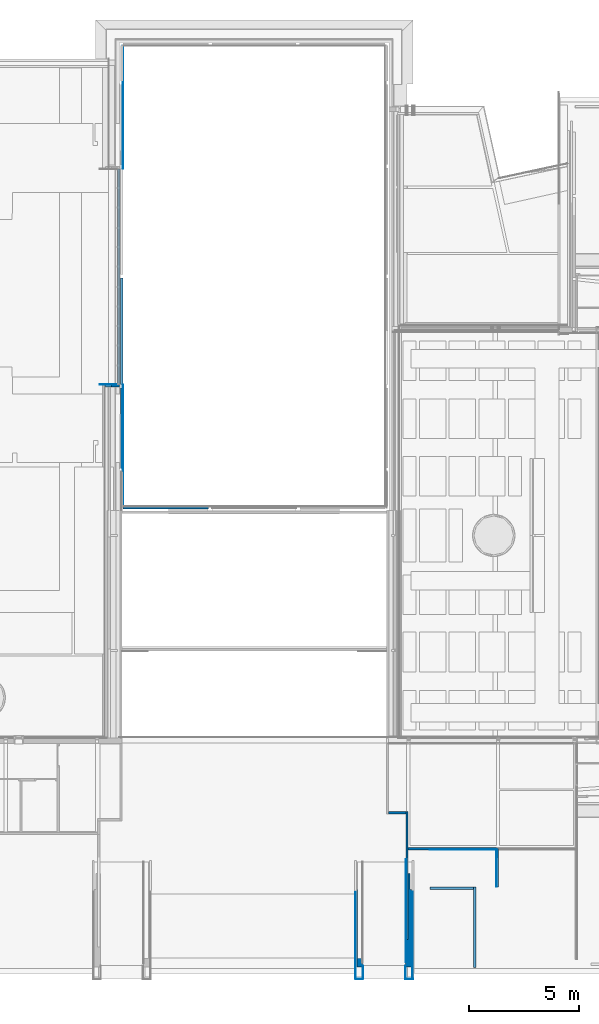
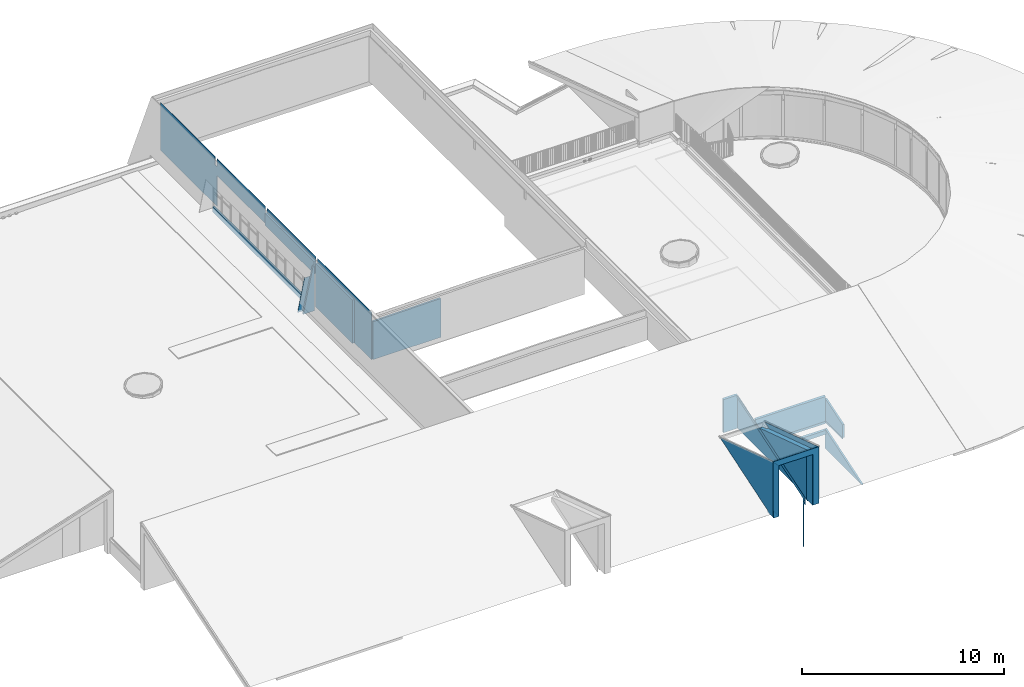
# One storey, part 24 of 66: 23 walls, 11 openings.
"""IFC2X3 building model written with IfcOpenShell, lengths in millimetres."""

from ifc_helpers import new_model, entity, si_unit, converted_unit, derived_unit, direction, frame, frame_2d, origin, origin_2d_with_axis, place, context, subcontext, project, spatial, polyline, rectangle, outline, extrude, clip, halfspace, bounded_halfspace, material, layer, layer_set, layer_usage, type_object, element, save


model = new_model("IFC2X3")

# Units and contexts
model_context = context("Model", 3, precision=0.01, world=origin(), true_north=direction((6.12303176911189e-17, 1.0)))
body_context = subcontext(model_context, "Body", "Model", "MODEL_VIEW")
ifc_project = project(units=[si_unit("LENGTHUNIT", "METRE", prefix="MILLI"), si_unit("AREAUNIT", "SQUARE_METRE"), si_unit("VOLUMEUNIT", "CUBIC_METRE"), converted_unit("PLANEANGLEUNIT", "DEGREE", entity("IfcRatioMeasure", 0.0174532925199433), si_unit("PLANEANGLEUNIT", "RADIAN"), dimensions=[0, 0, 0, 0, 0, 0, 0]), si_unit("MASSUNIT", "GRAM", prefix="KILO"), derived_unit("MASSDENSITYUNIT", [(si_unit("MASSUNIT", "GRAM", prefix="KILO"), 1), (si_unit("LENGTHUNIT", "METRE"), -3)]), derived_unit("MOMENTOFINERTIAUNIT", [(si_unit("LENGTHUNIT", "METRE"), 4)]), si_unit("TIMEUNIT", "SECOND"), si_unit("FREQUENCYUNIT", "HERTZ"), si_unit("THERMODYNAMICTEMPERATUREUNIT", "DEGREE_CELSIUS"), derived_unit("THERMALTRANSMITTANCEUNIT", [(si_unit("MASSUNIT", "GRAM", prefix="KILO"), 1), (si_unit("THERMODYNAMICTEMPERATUREUNIT", "KELVIN"), -1), (si_unit("TIMEUNIT", "SECOND"), -3)]), derived_unit("VOLUMETRICFLOWRATEUNIT", [(si_unit("LENGTHUNIT", "METRE"), 3), (si_unit("TIMEUNIT", "SECOND"), -1)]), si_unit("ELECTRICCURRENTUNIT", "AMPERE"), si_unit("ELECTRICVOLTAGEUNIT", "VOLT"), si_unit("POWERUNIT", "WATT"), si_unit("FORCEUNIT", "NEWTON", prefix="KILO"), si_unit("ILLUMINANCEUNIT", "LUX"), si_unit("LUMINOUSFLUXUNIT", "LUMEN"), si_unit("LUMINOUSINTENSITYUNIT", "CANDELA"), derived_unit("USERDEFINED", [(si_unit("MASSUNIT", "GRAM", prefix="KILO"), -1), (si_unit("LENGTHUNIT", "METRE"), -2), (si_unit("TIMEUNIT", "SECOND"), 3), (si_unit("LUMINOUSFLUXUNIT", "LUMEN"), 1)]), derived_unit("LINEARVELOCITYUNIT", [(si_unit("LENGTHUNIT", "METRE"), 1), (si_unit("TIMEUNIT", "SECOND"), -1)]), si_unit("PRESSUREUNIT", "PASCAL"), derived_unit("USERDEFINED", [(si_unit("LENGTHUNIT", "METRE"), -2), (si_unit("MASSUNIT", "GRAM", prefix="KILO"), 1), (si_unit("TIMEUNIT", "SECOND"), -2)]), derived_unit("LINEARFORCEUNIT", [(si_unit("MASSUNIT", "GRAM", prefix="KILO"), 1), (si_unit("LENGTHUNIT", "METRE"), 1), (si_unit("TIMEUNIT", "SECOND"), -2), (si_unit("LENGTHUNIT", "METRE"), -1)]), derived_unit("PLANARFORCEUNIT", [(si_unit("MASSUNIT", "GRAM", prefix="KILO"), 1), (si_unit("LENGTHUNIT", "METRE"), 1), (si_unit("TIMEUNIT", "SECOND"), -2), (si_unit("LENGTHUNIT", "METRE"), -2)])], contexts=[model_context])

# Site, building, storey
site_placement = place(None, origin())
site = spatial("IfcSite", under=ifc_project, at=site_placement, Name="Default", CompositionType="ELEMENT")
building_placement = place(site_placement, origin())
building = spatial("IfcBuilding", under=site, at=building_placement, Name="-", CompositionType="ELEMENT")
storey_placement = place(building_placement, frame((0.0, 0.0, 3070.0)))
storey = spatial("IfcBuildingStorey", under=building, at=storey_placement, Name="01 eerste verdieping", CompositionType="ELEMENT", Elevation=3070.00000000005)

# Walls
ifc_material_1 = material(Name="NLRS_i4_hout_multiplex")
ifc_layer_1 = layer(ifc_material_1, 9.0)
ifc_material_2 = material(Name="NLRS_m1_isolatie")
ifc_layer_2 = layer(ifc_material_2, 89.0)
ifc_layer_3 = layer(ifc_material_1, 9.0)
ifc_layer_set_1 = layer_set([ifc_layer_1, ifc_layer_2, ifc_layer_3], Name="Basic Wall:NLRS_21_WA_HSB-wand_110mm")
ifc_layer_usage_1 = layer_usage(ifc_layer_set_1, "AXIS2", "NEGATIVE", 53.5)
wall_type_1 = type_object("IfcWallType", Name="Basic Wall:NLRS_21_WA_HSB-wand_110mm", PredefinedType="STANDARD", material=ifc_layer_set_1)
wall_1_placement = place(storey_placement, frame((28025.9009154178, 26420.4768827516, 0.0)))
element("IfcWallStandardCase", 1, at=wall_1_placement, inside=storey, type_object=wall_type_1, material=ifc_layer_usage_1, Name="Basic Wall:NLRS_21_WA_HSB-wand_110mm", ObjectType="Basic Wall:NLRS_21_WA_HSB-wand_110mm", context=body_context, shape_type="Clipping", body=[
    clip(clip(extrude(rectangle(XDim=632.099084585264, YDim=107.000000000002, at=frame_2d((316.049542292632, 0.0), x_axis=(-1.0, 0.0))), origin(), (0.0, 0.0, 1.0), 2714.0), halfspace(frame((0.0, -53.5000000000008, 0.0), z_axis=(-0.979575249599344, 0.0, 0.201077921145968), x_axis=(0.0, 1.0, 0.0)), False)), halfspace(frame((557.104192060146, -53.5000000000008, 2714.0), z_axis=(0.0, 0.0, 1.0), x_axis=(0.0, 1.0, 0.0)), False)),
])
ifc_layer_usage_2 = layer_usage(ifc_layer_set_1, "AXIS2", "NEGATIVE", 53.5)
wall_2_placement = place(storey_placement, frame((28618.0, 26473.9768827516, 0.0), z_axis=(0.0, 0.0, 1.0), x_axis=(0.0, 1.0, 0.0)))
element("IfcWallStandardCase", 2, at=wall_2_placement, inside=storey, type_object=wall_type_1, material=ifc_layer_usage_2, Name="Basic Wall:NLRS_21_WA_HSB-wand_110mm", ObjectType="Basic Wall:NLRS_21_WA_HSB-wand_110mm", context=body_context, shape_type="SweptSolid", body=[
    extrude(rectangle(XDim=9815.07846312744, YDim=107.000000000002, at=frame_2d((4907.53923156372, -4.9737991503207e-14), x_axis=(-1.0, 0.0))), origin(), (0.0, 0.0, 1.0), 345.359003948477),
])
ifc_layer_usage_3 = layer_usage(ifc_layer_set_1, "AXIS2", "POSITIVE", -53.5)
wall_3_placement = place(storey_placement, frame((28761.5005071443, 22672.2745267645, 245.0), z_axis=(0.0, 0.0, 1.0), x_axis=(0.0, 1.0, 0.0)))
element("IfcWallStandardCase", 3, at=wall_3_placement, inside=storey, type_object=wall_type_1, material=ifc_layer_usage_3, Name="Basic Wall:NLRS_21_WA_HSB-wand_110mm", ObjectType="Basic Wall:NLRS_21_WA_HSB-wand_110mm", context=body_context, shape_type="SweptSolid", body=[
    extrude(rectangle(XDim=3645.0, YDim=107.000000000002, at=frame_2d((1822.5, 0.0), x_axis=(-1.0, 0.0))), origin(), (0.0, 0.0, 1.0), 2633.52593752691),
])
ifc_layer_usage_4 = layer_usage(ifc_layer_set_1, "AXIS2", "POSITIVE", -53.5)
wall_4_placement = place(storey_placement, frame((32703.0, 20876.8202504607, 345.0), z_axis=(0.0, 0.0, 1.0), x_axis=(-1.0, 0.0, 0.0)))
element("IfcWallStandardCase", 4, at=wall_4_placement, inside=storey, type_object=wall_type_1, material=ifc_layer_usage_4, Name="Basic Wall:NLRS_21_WA_HSB-wand_110mm", ObjectType="Basic Wall:NLRS_21_WA_HSB-wand_110mm", context=body_context, shape_type="Clipping", body=[
    clip(extrude(rectangle(XDim=3885.0, YDim=107.000000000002, at=frame_2d((1942.5, 0.0), x_axis=(-1.0, 0.0))), origin(), (0.0, 0.0, 1.0), 2355.14919811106), halfspace(frame((0.0, -53.5000000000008, 2355.14919811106), z_axis=(0.0141681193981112, 0.0, 0.999899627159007), x_axis=(0.0, 1.0, 0.0)), False)),
])
ifc_layer_usage_5 = layer_usage(ifc_layer_set_1, "AXIS2", "POSITIVE", -53.5)
wall_5_placement = place(storey_placement, frame((28761.500000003, 26478.8202504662, 2143.30371120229), z_axis=(0.0, 0.0, 1.0), x_axis=(0.0, 1.0, 0.0)))
element("IfcWallStandardCase", 5, at=wall_5_placement, inside=storey, type_object=wall_type_1, material=ifc_layer_usage_5, Name="Basic Wall:NLRS_21_WA_HSB-wand_110mm", ObjectType="Basic Wall:NLRS_21_WA_HSB-wand_110mm", context=body_context, shape_type="SweptSolid", body=[
    extrude(rectangle(XDim=4856.00000000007, YDim=107.000000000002, at=frame_2d((2428.00000000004, 1.4210854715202e-12), x_axis=(-1.0, 0.0))), origin(), (0.0, 0.0, 1.0), 735.222226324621),
])
ifc_material_3 = material(Name="NLRS_f7_gipsplaat_gen")
ifc_layer_4 = layer(ifc_material_3, 12.5)
ifc_layer_5 = layer(ifc_material_2, 75.0)
ifc_layer_6 = layer(ifc_material_3, 12.5)
ifc_layer_set_2 = layer_set([ifc_layer_4, ifc_layer_5, ifc_layer_6], Name="Basic Wall:NLRS_21_WA_Metalstud 100mm")
ifc_layer_usage_6 = layer_usage(ifc_layer_set_2, "AXIS2", "NEGATIVE", 50.0)
wall_type_2 = type_object("IfcWallType", Name="Basic Wall:NLRS_21_WA_Metalstud 100mm", PredefinedType="STANDARD", material=ifc_layer_set_2)
wall_6_placement = place(storey_placement, frame((40893.066810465, 7008.1212223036, 100.0)))
element("IfcWallStandardCase", 6, at=wall_6_placement, inside=storey, type_object=wall_type_2, material=ifc_layer_usage_6, Name="Basic Wall:NLRS_21_WA_Metalstud 100mm", ObjectType="Basic Wall:NLRS_21_WA_Metalstud 100mm", context=body_context, shape_type="Clipping", body=[
    clip(extrude(rectangle(XDim=794.219106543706, YDim=99.9999999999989, at=frame_2d((397.109553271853, 0.0), x_axis=(-1.0, 0.0))), origin(), (0.0, 0.0, 1.0), 2040.42827331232), bounded_halfspace(frame((0.0, -50.0, 2007.93630368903), z_axis=(0.0, -0.309016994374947, 0.951056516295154), x_axis=(1.0, 0.0, 0.0)), False, frame((0.0, -50.0, 2007.93630368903), z_axis=(0.0, -0.309016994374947, 0.951056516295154), x_axis=(1.0, 0.0, 0.0)), polyline([(0.0, 0.0), (794.219106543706, 0.0), (794.219106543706, 105.146222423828), (0.0, 105.146222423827), (0.0, 0.0)]))),
])
ifc_layer_usage_7 = layer_usage(ifc_layer_set_2, "AXIS2", "NEGATIVE", 50.0)
wall_7_placement = place(storey_placement, frame((44817.2859529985, 3620.76111630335, -163.0), z_axis=(0.0, 0.0, 1.0), x_axis=(0.0, -1.0, 0.0)))
element("IfcWallStandardCase", 7, at=wall_7_placement, inside=storey, type_object=wall_type_2, material=ifc_layer_usage_7, Name="Basic Wall:NLRS_21_WA_Metalstud 100mm", ObjectType="Basic Wall:NLRS_21_WA_Metalstud 100mm", context=body_context, shape_type="Clipping", body=[
    clip(extrude(rectangle(XDim=3651.86316983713, YDim=99.9999999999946, at=frame_2d((1825.93158491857, 0.0), x_axis=(-1.0, 0.0))), origin(), (0.0, 0.0, 1.0), 1186.56227182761), halfspace(frame((0.0, -50.0, 1186.56227182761), z_axis=(0.309016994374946, 0.0, 0.951056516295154), x_axis=(0.0, 1.0, 0.0)), False)),
])
ifc_layer_usage_8 = layer_usage(ifc_layer_set_2, "AXIS2", "NEGATIVE", 50.0)
wall_8_placement = place(storey_placement, frame((41737.2859170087, 1248.58021179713, 100.0), z_axis=(0.0, 0.0, 1.0), x_axis=(0.0, 1.0, 0.0)))
element("IfcWallStandardCase", 8, at=wall_8_placement, inside=storey, type_object=wall_type_2, material=ifc_layer_usage_8, Name="Basic Wall:NLRS_21_WA_Metalstud 100mm", ObjectType="Basic Wall:NLRS_21_WA_Metalstud 100mm", context=body_context, shape_type="Clipping", body=[
    clip(extrude(rectangle(XDim=5809.54101050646, YDim=99.9999999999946, at=frame_2d((2904.77050525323, -2.70006239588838e-13), x_axis=(-1.0, 0.0))), origin(), (0.0, 0.0, 1.0), 1887.63430038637), halfspace(frame((0.0, -50.0, 0.0), z_axis=(-0.309016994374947, 0.0, 0.951056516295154), x_axis=(0.0, 1.0, 0.0)), False)),
])
ifc_layer_usage_9 = layer_usage(ifc_layer_set_2, "AXIS2", "NEGATIVE", 50.0)
wall_9_placement = place(storey_placement, frame((45836.4585299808, 5370.76111630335, 100.0), z_axis=(0.0, 0.0, 1.0), x_axis=(0.0, -1.0, 0.0)))
element("IfcWallStandardCase", 9, at=wall_9_placement, inside=storey, type_object=wall_type_2, material=ifc_layer_usage_9, Name="Basic Wall:NLRS_21_WA_Metalstud 100mm", ObjectType="Basic Wall:NLRS_21_WA_Metalstud 100mm", context=body_context, shape_type="Clipping", body=[
    clip(extrude(rectangle(XDim=1750.0, YDim=99.9999999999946, at=frame_2d((875.0, -2.00017780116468e-12), x_axis=(-1.0, 0.0))), origin(), (0.0, 0.0, 1.0), 1337.53342280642), halfspace(frame((0.0, -50.0, 1337.53342280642), z_axis=(0.299874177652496, 0.0, 0.953978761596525), x_axis=(0.0, 1.0, 0.0)), False)),
])
ifc_layer_7 = layer(ifc_material_3, 12.5)
ifc_layer_8 = layer(ifc_material_2, 89.0)
ifc_layer_9 = layer(ifc_material_3, 12.5)
ifc_layer_set_3 = layer_set([ifc_layer_7, ifc_layer_8, ifc_layer_9], Name="Basic Wall:NLRS_21_WA_HSB-wand_114mm")
ifc_layer_usage_10 = layer_usage(ifc_layer_set_3, "AXIS2", "NEGATIVE", 57.0)
wall_type_3 = type_object("IfcWallType", Name="Basic Wall:NLRS_21_WA_HSB-wand_114mm", PredefinedType="STANDARD", material=ifc_layer_set_3)
wall_10_placement = place(storey_placement, frame((42777.2859529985, 3563.76111630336, 750.0)))
element("IfcWallStandardCase", 10, at=wall_10_placement, inside=storey, type_object=wall_type_3, material=ifc_layer_usage_10, Name="Basic Wall:NLRS_21_WA_HSB-wand_114mm", ObjectType="Basic Wall:NLRS_21_WA_HSB-wand_114mm", context=body_context, shape_type="Clipping", body=[
    clip(extrude(rectangle(XDim=1980.0, YDim=114.0, at=frame_2d((990.0, -4.2632564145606e-14), x_axis=(-1.0, 0.0))), origin(), (0.0, 0.0, 1.0), 273.562271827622), bounded_halfspace(frame((0.0, -57.0, 236.521426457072), z_axis=(0.0, -0.309016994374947, 0.951056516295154), x_axis=(1.0, 0.0, 0.0)), False, frame((0.0, -57.0, 236.521426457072), z_axis=(0.0, -0.309016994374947, 0.951056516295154), x_axis=(1.0, 0.0, 0.0)), polyline([(0.0, 0.0), (1980.0, 0.0), (1980.0, 119.866693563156), (0.0, 119.866693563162), (0.0, 0.0)]))),
])
ifc_layer_10 = layer(ifc_material_3, 12.5)
ifc_material_4 = material(Name="NLRS_i4_hout_underlayment")
ifc_layer_11 = layer(ifc_material_4, 10.0)
ifc_layer_12 = layer(ifc_material_2, 75.0)
ifc_layer_13 = layer(ifc_material_3, 12.5)
ifc_layer_set_4 = layer_set([ifc_layer_10, ifc_layer_11, ifc_layer_12, ifc_layer_13], Name="Basic Wall:NLRS_21_WA_Metalstud 110mm (rand staalconstructie)")
ifc_layer_usage_11 = layer_usage(ifc_layer_set_4, "AXIS2", "NEGATIVE", 55.0)
wall_type_4 = type_object("IfcWallType", Name="Basic Wall:NLRS_21_WA_Metalstud 110mm (rand staalconstructie)", PredefinedType="STANDARD", material=ifc_layer_set_4)
wall_11_placement = place(storey_placement, frame((45791.4585299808, 5375.72593990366, 82.0), z_axis=(0.0, 0.0, 1.0), x_axis=(-1.0, 0.0, 0.0)))
element("IfcWallStandardCase", 11, at=wall_11_placement, inside=storey, type_object=wall_type_4, material=ifc_layer_usage_11, Name="Basic Wall:NLRS_21_WA_Metalstud 110mm (rand staalconstructie)", ObjectType="Basic Wall:NLRS_21_WA_Metalstud 110mm (rand staalconstructie)", context=body_context, shape_type="Clipping", body=[
    clip(extrude(rectangle(XDim=4004.17261297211, YDim=110.000000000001, at=frame_2d((2002.08630648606, -3.83693077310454e-13), x_axis=(-1.0, 0.0))), origin(), (0.0, 0.0, 1.0), 1529.65549250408), bounded_halfspace(frame((0.0, -55.0, 1529.65549250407), z_axis=(0.0, 0.309016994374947, 0.951056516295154), x_axis=(-1.0, 0.0, 0.0)), False, frame((0.0, -55.0, 1529.65549250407), z_axis=(0.0, 0.309016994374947, 0.951056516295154), x_axis=(-1.0, 0.0, 0.0)), polyline([(0.0, 0.0), (-4004.17261297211, 0.0), (-4004.17261297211, -115.66084466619), (0.0, -115.660844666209), (0.0, 0.0)]))),
])

# Wall, opening
ifc_material_5 = material(Name="AL Houten gevelbekleding staand")
ifc_layer_14 = layer(ifc_material_5, 20.0)
ifc_layer_set_5 = layer_set([ifc_layer_14], Name="Basic Wall:NLRS_42_WA_Houten gevelbekleding staand 20mm")
ifc_layer_usage_12 = layer_usage(ifc_layer_set_5, "AXIS2", "NEGATIVE", 10.0)
wall_type_5 = type_object("IfcWallType", Name="Basic Wall:NLRS_42_WA_Houten gevelbekleding staand 20mm", PredefinedType="STANDARD", material=ifc_layer_set_5)
wall_12_placement = place(storey_placement, frame((42016.7859170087, -548.516507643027, 0.0), z_axis=(0.0, 0.0, 1.0), x_axis=(-1.0, 0.0, 0.0)))
wall_12 = element("IfcWallStandardCase", 12, at=wall_12_placement, inside=storey, type_object=wall_type_5, material=ifc_layer_usage_12, Name="Basic Wall:NLRS_42_WA_Houten gevelbekleding staand 20mm", ObjectType="Basic Wall:NLRS_42_WA_Houten gevelbekleding staand 20mm", context=body_context, shape_type="SweptSolid", body=[
    extrude(rectangle(XDim=2612.49361967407, YDim=20.0000000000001, at=frame_2d((1306.24680983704, -2.66453525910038e-15), x_axis=(-1.0, 0.0))), origin(), (0.0, 0.0, 1.0), 3425.90316159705),
])
opening_1_placement = place(wall_12_placement, origin())
element("IfcOpeningElement", 13, at=opening_1_placement, cuts=wall_12, Name="Basic Wall:NLRS_42_WA_Houten gevelbekleding staand 20mm", ObjectType="Opening", context=body_context, shape_type="SweptSolid", body=[
    extrude(rectangle(XDim=3078.35905654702, YDim=1927.99999999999, at=frame_2d((0.0, -2.27373675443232e-13), x_axis=(0.0, 1.0))), frame((1324.5, 10.0, 1539.17952827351), z_axis=(0.0, -1.0, 0.0), x_axis=(1.0, 0.0, 0.0)), (0.0, 0.0, 1.0), 20.0),
])

# Wall
ifc_layer_usage_13 = layer_usage(ifc_layer_set_5, "AXIS2", "NEGATIVE", 10.0)
wall_13_placement = place(storey_placement, frame((39728.2859170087, 56.3703555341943, 0.0), z_axis=(0.0, 0.0, 1.0), x_axis=(0.0, -1.0, 0.0)))
element("IfcWallStandardCase", 14, at=wall_13_placement, inside=storey, type_object=wall_type_5, material=ifc_layer_usage_13, Name="Basic Wall:NLRS_42_WA_Houten gevelbekleding staand 20mm", ObjectType="Basic Wall:NLRS_42_WA_Houten gevelbekleding staand 20mm", context=body_context, shape_type="Clipping", body=[
    clip(extrude(rectangle(XDim=594.886863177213, YDim=19.9999999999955, at=frame_2d((297.443431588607, 0.0), x_axis=(-1.0, 0.0))), origin(), (0.0, 0.0, 1.0), 3082.87685927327), halfspace(frame((0.0, -10.0, 2937.94214671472), z_axis=(-0.236710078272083, 0.0, 0.97158033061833), x_axis=(0.0, 1.0, 0.0)), False)),
])

# Wall, opening
ifc_layer_usage_14 = layer_usage(ifc_layer_set_5, "AXIS2", "NEGATIVE", 10.0)
wall_14_placement = place(storey_placement, frame((41989.7922973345, -556.516507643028, 62.7460683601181), z_axis=(0.0, 0.0, 1.0), x_axis=(0.0, 1.0, 0.0)))
wall_14 = element("IfcWallStandardCase", 15, at=wall_14_placement, inside=storey, type_object=wall_type_5, material=ifc_layer_usage_14, Name="Basic Wall:NLRS_42_WA_Houten gevelbekleding staand 20mm", ObjectType="Basic Wall:NLRS_42_WA_Houten gevelbekleding staand 20mm", context=body_context, shape_type="Clipping", body=[
    clip(clip(clip(extrude(rectangle(XDim=5297.63794509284, YDim=19.9999999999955, at=frame_2d((2648.81897254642, 7.99360577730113e-15), x_axis=(-1.0, 0.0))), origin(), (0.0, 0.0, 1.0), 3372.10563573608), halfspace(frame((0.0, -10.0, 3372.10563573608), z_axis=(0.308965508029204, 0.0, 0.951073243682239), x_axis=(0.0, 1.0, 0.0)), False)), halfspace(frame((392.061464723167, -10.0, 0.0), z_axis=(0.0, 0.0, -1.0), x_axis=(0.0, 1.0, 0.0)), False)), halfspace(frame((392.061464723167, 0.0, 0.0), z_axis=(0.318995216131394, 0.0, -0.947756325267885), x_axis=(0.0, 1.0, 0.0)), False)),
])
opening_2_placement = place(wall_14_placement, origin())
element("IfcOpeningElement", 16, at=opening_2_placement, cuts=wall_14, Name="Basic Wall:NLRS_42_WA_Houten gevelbekleding staand 20mm", ObjectType="Opening", context=body_context, shape_type="SweptSolid", body=[
    extrude(outline(polyline([(-1731.41162044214, -18.0697217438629), (3444.57755481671, -18.0697217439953), (-1713.16593437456, 36.139443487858), (-1731.41162044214, -18.0697217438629)])), frame((2027.25362484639, 10.0, 569.437717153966), z_axis=(0.0, -1.0, 0.0), x_axis=(0.947756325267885, 0.0, 0.318995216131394)), (0.0, 0.0, 1.0), 20.0),
])

ifc_layer_usage_15 = layer_usage(ifc_layer_set_5, "AXIS2", "NEGATIVE", 10.0)
wall_15_placement = place(storey_placement, frame((39394.2922973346, -538.516507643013, 56.855176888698), z_axis=(0.0, 0.0, 1.0), x_axis=(0.0, 1.0, 0.0)))
wall_15 = element("IfcWallStandardCase", 17, at=wall_15_placement, inside=storey, type_object=wall_type_5, material=ifc_layer_usage_15, Name="Basic Wall:NLRS_42_WA_Houten gevelbekleding staand 20mm", ObjectType="Basic Wall:NLRS_42_WA_Houten gevelbekleding staand 20mm", context=body_context, shape_type="Clipping", body=[
    clip(clip(clip(extrude(rectangle(XDim=5276.40409600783, YDim=19.9999999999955, at=frame_2d((2638.20204800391, -9.76996261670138e-15), x_axis=(-1.0, 0.0))), origin(), (0.0, 0.0, 1.0), 3372.14903619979), halfspace(frame((0.0, -10.0, 3372.14903619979), z_axis=(0.308965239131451, 0.0, 0.95107333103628), x_axis=(0.0, 1.0, 0.0)), False)), halfspace(frame((524.637729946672, -10.0, 0.0), z_axis=(0.0, 0.0, -1.0), x_axis=(0.0, 1.0, 0.0)), False)), halfspace(frame((524.637729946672, 0.0, 0.0), z_axis=(0.329454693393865, 0.0, -0.944171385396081), x_axis=(0.0, 1.0, 0.0)), False)),
])
opening_3_placement = place(wall_15_placement, origin())
element("IfcOpeningElement", 18, at=opening_3_placement, cuts=wall_15, Name="Basic Wall:NLRS_42_WA_Houten gevelbekleding staand 20mm", ObjectType="Opening", context=body_context, shape_type="SweptSolid", body=[
    extrude(outline(polyline([(-1690.11109402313, -35.9151389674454), (3342.62601235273, -35.9151389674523), (-1652.5149183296, 71.8302779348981), (-1690.11109402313, -35.9151389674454)])), frame((2108.55985196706, 10.0, 590.725078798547), z_axis=(0.0, -1.0, 0.0), x_axis=(0.944171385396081, 0.0, 0.329454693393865)), (0.0, 0.0, 1.0), 20.0),
])

# Walls
ifc_layer_usage_16 = layer_usage(ifc_layer_set_5, "AXIS2", "NEGATIVE", 10.0)
wall_16_placement = place(storey_placement, frame((41656.2859170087, 56.3703555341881, 0.0), z_axis=(0.0, 0.0, 1.0), x_axis=(0.0, -1.0, 0.0)))
element("IfcWallStandardCase", 19, at=wall_16_placement, inside=storey, type_object=wall_type_5, material=ifc_layer_usage_16, Name="Basic Wall:NLRS_42_WA_Houten gevelbekleding staand 20mm", ObjectType="Basic Wall:NLRS_42_WA_Houten gevelbekleding staand 20mm", context=body_context, shape_type="Clipping", body=[
    clip(extrude(rectangle(XDim=614.886863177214, YDim=19.9999999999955, at=frame_2d((307.443431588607, 0.0), x_axis=(-1.0, 0.0))), origin(), (0.0, 0.0, 1.0), 3082.87685927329), halfspace(frame((0.0, -10.0, 2937.94214671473), z_axis=(-0.236710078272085, 0.0, 0.97158033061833), x_axis=(0.0, 1.0, 0.0)), False)),
])
ifc_layer_15 = layer(ifc_material_1, 10.0)
ifc_layer_16 = layer(ifc_material_2, 235.0)
ifc_layer_17 = layer(ifc_material_1, 10.0)
ifc_layer_18 = layer(ifc_material_3, 12.5)
ifc_layer_set_6 = layer_set([ifc_layer_15, ifc_layer_16, ifc_layer_17, ifc_layer_18], Name="Basic Wall:NLRS_21_WA_HSB-wand_268mm")
ifc_layer_usage_17 = layer_usage(ifc_layer_set_6, "AXIS2", "POSITIVE", -133.75)
wall_type_6 = type_object("IfcWallType", Name="Basic Wall:NLRS_21_WA_HSB-wand_268mm", PredefinedType="STANDARD", material=ifc_layer_set_6)
wall_17_placement = place(storey_placement, frame((41803.0422973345, -13.8787776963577, -80.0384145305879), z_axis=(0.0, 0.0, 1.0), x_axis=(0.0, 1.0, 0.0)))
element("IfcWallStandardCase", 20, at=wall_17_placement, inside=storey, type_object=wall_type_6, material=ifc_layer_usage_17, Name="Basic Wall:NLRS_21_WA_HSB-wand_268mm", ObjectType="Basic Wall:NLRS_21_WA_HSB-wand_268mm", context=body_context, shape_type="Clipping", body=[
    clip(clip(clip(extrude(rectangle(XDim=4748.53648827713, YDim=267.5, at=frame_2d((2374.26824413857, 5.6843418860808e-14), x_axis=(-1.0, 0.0))), origin(), (0.0, 0.0, 1.0), 3085.17691562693), bounded_halfspace(frame((4382.86005360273, -59.342517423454, 1661.09935837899), z_axis=(0.0, 1.0, 0.0), x_axis=(-1.0, 0.0, 0.0)), True, frame((4382.86005360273, -59.342517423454, 1661.09935837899), z_axis=(0.0, 1.0, 0.0), x_axis=(-1.0, 0.0, 0.0)), polyline([(0.0, 0.0), (-365.676434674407, -118.815476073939), (4380.12482289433, -1660.21097892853), (4382.86005360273, -1651.7928044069), (4382.86005360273, -1424.07755724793), (0.0, 0.0)]))), halfspace(frame((4748.53648827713, 133.75, 1542.28388230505), z_axis=(0.309016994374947, 0.0, 0.951056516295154), x_axis=(0.0, 1.0, 0.0)), False)), halfspace(frame((0.0, 133.75, 0.0), z_axis=(0.308906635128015, 0.0, -0.951092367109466), x_axis=(0.0, 1.0, 0.0)), False)),
])
ifc_layer_usage_18 = layer_usage(ifc_layer_set_6, "AXIS2", "NEGATIVE", 133.75)
wall_18_placement = place(storey_placement, frame((39581.5359170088, -13.8787776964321, -83.1572103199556), z_axis=(0.0, 0.0, 1.0), x_axis=(0.0, 1.0, 0.0)))
element("IfcWallStandardCase", 21, at=wall_18_placement, inside=storey, type_object=wall_type_6, material=ifc_layer_usage_18, Name="Basic Wall:NLRS_21_WA_HSB-wand_268mm", ObjectType="Basic Wall:NLRS_21_WA_HSB-wand_268mm", context=body_context, shape_type="Clipping", body=[
    clip(clip(clip(extrude(rectangle(XDim=4752.59315699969, YDim=267.5, at=frame_2d((2376.29657849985, -5.6843418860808e-14), x_axis=(-1.0, 0.0))), origin(), (0.0, 0.0, 1.0), 3088.28672859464), bounded_halfspace(frame((0.0, 29.1511022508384, 240.140596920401), z_axis=(0.0, -1.0, 0.0), x_axis=(1.0, 0.0, 0.0)), True, frame((0.0, 29.1511022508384, 240.140596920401), z_axis=(0.0, -1.0, 0.0), x_axis=(1.0, 0.0, 0.0)), polyline([(0.0, 0.0), (0.0, -227.71524715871), (3.65174927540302, -238.954175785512), (4752.59315699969, 1303.93500678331), (4382.8462304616, 1424.07306583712), (0.0, 0.0)]))), halfspace(frame((0.0, -133.75, 3088.28672859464), z_axis=(0.309016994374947, 0.0, 0.951056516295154), x_axis=(0.0, 1.0, 0.0)), False)), halfspace(frame((4752.59315699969, -133.75, 1544.07560370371), z_axis=(0.308992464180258, 0.0, -0.951064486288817), x_axis=(0.0, 1.0, 0.0)), False)),
])
ifc_layer_19 = layer(ifc_material_1, 18.0)
ifc_layer_set_7 = layer_set([ifc_layer_19], Name="Basic Wall:NLRS_41_WA_plaatmateriaal 18mm_gen_aly")
ifc_layer_usage_19 = layer_usage(ifc_layer_set_7, "AXIS2", "NEGATIVE", 9.0)
wall_type_7 = type_object("IfcWallType", Name="Basic Wall:NLRS_41_WA_plaatmateriaal 18mm_gen_aly", PredefinedType="STANDARD", material=ifc_layer_set_7)
wall_19_placement = place(storey_placement, frame((27758.5921087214, 26482.9768827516, 140.0)))
element("IfcWallStandardCase", 22, at=wall_19_placement, inside=storey, type_object=wall_type_7, material=ifc_layer_usage_19, Name="Basic Wall:NLRS_41_WA_plaatmateriaal 18mm_gen_aly", ObjectType="Basic Wall:NLRS_41_WA_plaatmateriaal 18mm_gen_aly", context=body_context, shape_type="Clipping", body=[
    clip(extrude(rectangle(XDim=802.407891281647, YDim=17.9999999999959, at=frame_2d((401.203945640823, 0.0), x_axis=(-1.0, 0.0))), origin(), (0.0, 0.0, 1.0), 1965.30371120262), halfspace(frame((0.0, -9.0, 0.0), z_axis=(-0.979575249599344, 0.0, 0.201077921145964), x_axis=(0.0, 1.0, 0.0)), False)),
])

# Wall, openings
ifc_layer_20 = layer(ifc_material_3, 12.5)
ifc_layer_21 = layer(ifc_material_1, 10.0)
ifc_layer_set_8 = layer_set([ifc_layer_20, ifc_layer_21], Name="Basic Wall:NLRS_41_WA_Bekleding kolommen")
ifc_layer_usage_20 = layer_usage(ifc_layer_set_8, "AXIS2", "NEGATIVE", 11.25)
wall_type_8 = type_object("IfcWallType", Name="Basic Wall:NLRS_41_WA_Bekleding kolommen", PredefinedType="STANDARD", material=ifc_layer_set_8)
wall_20_placement = place(storey_placement, frame((41680.5422973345, 204.621222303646, -3070.0), z_axis=(0.0, 0.0, 1.0), x_axis=(0.0, 1.0, 0.0)))
wall_20 = element("IfcWallStandardCase", 23, at=wall_20_placement, inside=storey, type_object=wall_type_8, material=ifc_layer_usage_20, Name="Basic Wall:NLRS_41_WA_Bekleding kolommen", ObjectType="Basic Wall:NLRS_41_WA_Bekleding kolommen", context=body_context, shape_type="Clipping", body=[
    clip(clip(extrude(rectangle(XDim=6753.49999999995, YDim=22.5000000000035, at=frame_2d((3376.74999999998, -2.22044604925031e-14), x_axis=(-1.0, 0.0))), origin(), (0.0, 0.0, 1.0), 5177.93630368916), halfspace(frame((0.0, -11.2500000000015, 3060.92850951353), z_axis=(-0.308906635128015, 0.0, 0.951092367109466), x_axis=(0.0, 1.0, 0.0)), False)), halfspace(frame((6753.49999999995, 0.0, 5177.93630368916), z_axis=(-0.279896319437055, 0.0, 0.960030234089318), x_axis=(0.0, 1.0, 0.0)), False)),
])
opening_4_placement = place(wall_20_placement, origin())
element("IfcOpeningElement", 24, at=opening_4_placement, cuts=wall_20, Name="Basic Wall:NLRS_41_WA_Bekleding kolommen", ObjectType="Opening", context=body_context, shape_type="SweptSolid", body=[
    extrude(rectangle(XDim=80.0000000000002, YDim=80.0000000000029, at=origin_2d_with_axis()), frame((86.5000000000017, 11.2500000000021, 2780.0), z_axis=(0.0, -1.0, 0.0), x_axis=(0.0, 0.0, 1.0)), (0.0, 0.0, 1.0), 22.5),
])
opening_5_placement = place(wall_20_placement, origin())
element("IfcOpeningElement", 25, at=opening_5_placement, cuts=wall_20, Name="Basic Wall:NLRS_41_WA_Bekleding kolommen", ObjectType="Opening", context=body_context, shape_type="SweptSolid", body=[
    extrude(outline(polyline([(-1563.37939480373, -23.2194340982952), (832.835449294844, -23.2194340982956), (730.543945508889, 46.4388681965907), (-1563.37939480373, -23.2194340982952)])), frame((5259.10754777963, 11.2500000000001, 4718.06080644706), z_axis=(0.0, -1.0, 0.0), x_axis=(-0.960030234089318, 0.0, -0.279896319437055)), (0.0, 0.0, 1.0), 22.5),
])
opening_6_placement = place(wall_20_placement, origin())
element("IfcOpeningElement", 26, at=opening_6_placement, cuts=wall_20, Name="Basic Wall:NLRS_41_WA_Bekleding kolommen", ObjectType="Opening", context=body_context, shape_type="SweptSolid", body=[
    extrude(rectangle(XDim=2620.00000000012, YDim=140.000000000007, at=origin_2d_with_axis()), frame((70.0, 11.2500000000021, 1310.0), z_axis=(0.0, -1.0, 0.0), x_axis=(0.0, 0.0, -1.0)), (0.0, 0.0, 1.0), 22.5),
])
opening_7_placement = place(wall_20_placement, origin())
element("IfcOpeningElement", 27, at=opening_7_placement, cuts=wall_20, Name="Basic Wall:NLRS_41_WA_Bekleding kolommen", ObjectType="Opening", context=body_context, shape_type="SweptSolid", body=[
    extrude(outline(polyline([(-3278.49999999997, -1979.1328523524), (3278.49999999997, -1979.1328523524), (3278.49999999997, 3043.96150442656), (-3278.49999999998, 914.304200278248), (-3278.49999999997, -1979.1328523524)])), frame((3475.0, 11.2499999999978, 1979.1328523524), z_axis=(0.0, -1.0, 0.0), x_axis=(1.0, 0.0, 0.0)), (0.0, 0.0, 1.0), 22.5),
])

# Walls
ifc_layer_usage_21 = layer_usage(ifc_layer_set_8, "AXIS2", "NEGATIVE", 11.25)
wall_21_placement = place(storey_placement, frame((45791.4585299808, 5331.97593990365, -58.0), z_axis=(0.0, 0.0, 1.0), x_axis=(-1.0, 0.0, 0.0)))
element("IfcWallStandardCase", 28, at=wall_21_placement, inside=storey, type_object=wall_type_8, material=ifc_layer_usage_21, Name="Basic Wall:NLRS_41_WA_Bekleding kolommen", ObjectType="Basic Wall:NLRS_41_WA_Bekleding kolommen", context=body_context, shape_type="SweptSolid", body=[
    extrude(rectangle(XDim=3014.17257698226, YDim=22.4999999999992, at=frame_2d((1507.08628849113, 0.0), x_axis=(-1.0, 0.0))), origin(), (0.0, 0.0, 1.0), 140.000000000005),
])
ifc_layer_usage_22 = layer_usage(ifc_layer_set_8, "AXIS2", "NEGATIVE", 11.25)
wall_22_placement = place(storey_placement, frame((45797.7085299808, 3650.72593990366, 0.0), z_axis=(0.0, 0.0, 1.0), x_axis=(0.0, 1.0, 0.0)))
element("IfcWallStandardCase", 29, at=wall_22_placement, inside=storey, type_object=wall_type_8, material=ifc_layer_usage_22, Name="Basic Wall:NLRS_41_WA_Bekleding kolommen", ObjectType="Basic Wall:NLRS_41_WA_Bekleding kolommen", context=body_context, shape_type="SweptSolid", body=[
    extrude(rectangle(XDim=1697.50582353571, YDim=22.5000000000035, at=frame_2d((848.752911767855, 0.0), x_axis=(-1.0, 0.0))), origin(), (0.0, 0.0, 1.0), 100.0),
])

# Wall, openings
ifc_material_6 = material(Name="NLRS_f7_fermacel plaat")
ifc_layer_22 = layer(ifc_material_6, 18.0)
ifc_layer_set_9 = layer_set([ifc_layer_22], Name="Basic Wall:NLRS_41_WA_Geperforeerde plaat")
ifc_layer_usage_23 = layer_usage(ifc_layer_set_9, "AXIS2", "NEGATIVE", 9.0)
wall_type_9 = type_object("IfcWallType", Name="Basic Wall:NLRS_41_WA_Geperforeerde plaat", PredefinedType="STANDARD", material=ifc_layer_set_9)
wall_23_placement = place(storey_placement, frame((28824.0, 20948.3202504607, 245.0), z_axis=(0.0, 0.0, 1.0), x_axis=(0.0, 1.0, 0.0)))
wall_23 = element("IfcWallStandardCase", 30, at=wall_23_placement, inside=storey, type_object=wall_type_9, material=ifc_layer_usage_23, Name="Basic Wall:NLRS_41_WA_Geperforeerde plaat", ObjectType="Basic Wall:NLRS_41_WA_Geperforeerde plaat", context=body_context, shape_type="SweptSolid", body=[
    extrude(rectangle(XDim=20949.5000000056, YDim=17.9999999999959, at=frame_2d((10474.7500000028, 4.20108392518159e-13), x_axis=(-1.0, 0.0))), origin(), (0.0, 0.0, 1.0), 2895.0),
])
opening_8_placement = place(wall_23_placement, origin())
element("IfcOpeningElement", 31, at=opening_8_placement, cuts=wall_23, Name="Basic Wall:NLRS_41_WA_Geperforeerde plaat", ObjectType="Opening", context=body_context, shape_type="SweptSolid", body=[
    extrude(rectangle(XDim=1860.30371120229, YDim=9815.07846312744, at=frame_2d((-1.81898940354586e-12, 7.61701812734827e-12), x_axis=(0.0, 1.0))), frame((10433.1958638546, 9.0, 930.151855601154), z_axis=(0.0, -1.0, 0.0), x_axis=(1.0, 0.0, 0.0)), (0.0, 0.0, 1.0), 18.0),
])
opening_9_placement = place(wall_23_placement, origin())
element("IfcOpeningElement", 32, at=opening_9_placement, cuts=wall_23, Name="Basic Wall:NLRS_41_WA_Geperforeerde plaat", ObjectType="Opening", context=body_context, shape_type="SweptSolid", body=[
    extrude(rectangle(XDim=495.347769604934, YDim=179.999999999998, at=frame_2d((-2.16715534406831e-12, 5.40012479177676e-13), x_axis=(0.0, 1.0))), frame((15438.5000000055, 9.0, 2647.32611519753), z_axis=(0.0, -1.0, 0.0), x_axis=(-1.0, 0.0, 0.0)), (0.0, 0.0, 1.0), 18.0),
])
opening_10_placement = place(wall_23_placement, origin())
element("IfcOpeningElement", 33, at=opening_10_placement, cuts=wall_23, Name="Basic Wall:NLRS_41_WA_Geperforeerde plaat", ObjectType="Opening", context=body_context, shape_type="SweptSolid", body=[
    extrude(rectangle(XDim=495.347769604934, YDim=179.999999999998, at=frame_2d((0.0, 5.40012479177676e-13), x_axis=(0.0, 1.0))), frame((10466.5000000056, 9.0, 2647.32611519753), z_axis=(0.0, -1.0, 0.0), x_axis=(-1.0, 0.0, 0.0)), (0.0, 0.0, 1.0), 18.0),
])
opening_11_placement = place(wall_23_placement, origin())
element("IfcOpeningElement", 34, at=opening_11_placement, cuts=wall_23, Name="Basic Wall:NLRS_41_WA_Geperforeerde plaat", ObjectType="Opening", context=body_context, shape_type="SweptSolid", body=[
    extrude(rectangle(XDim=495.347769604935, YDim=179.999999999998, at=frame_2d((2.16715534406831e-12, 0.0), x_axis=(0.0, 1.0))), frame((5450.50000000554, 9.0, 2647.32611519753), z_axis=(0.0, -1.0, 0.0), x_axis=(-1.0, 0.0, 0.0)), (0.0, 0.0, 1.0), 18.0),
])

save(model, "model.ifc")
